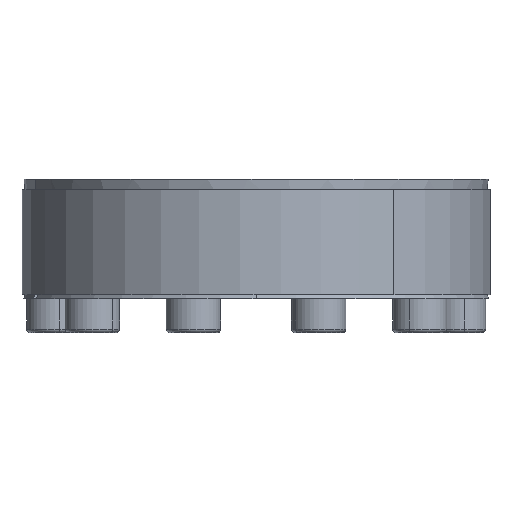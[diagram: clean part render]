
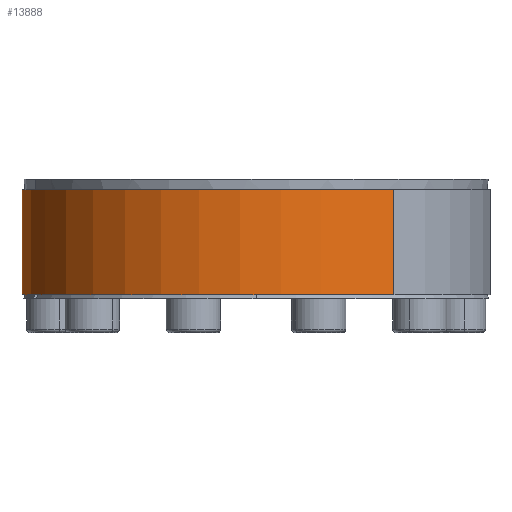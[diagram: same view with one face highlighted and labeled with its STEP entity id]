
A CAD part, left-side view. The second image highlights one B-rep face of the part: STEP entity #13888.
In plain terms, the highlighted cylindrical face has radius 68.98 mm (diameter 137.96 mm), a partial arc.
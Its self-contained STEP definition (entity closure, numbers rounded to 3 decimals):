
#569 = DIRECTION ( 'NONE',  ( 0., 0., -1. ) ) ;
#865 = CARTESIAN_POINT ( 'NONE',  ( -55.806, -40.545, 32.054 ) ) ;
#1287 = AXIS2_PLACEMENT_3D ( 'NONE', #13131, #6027, #14311 ) ;
#1507 = EDGE_LOOP ( 'NONE', ( #9873, #5436, #12437, #7676 ) ) ;
#1644 = CARTESIAN_POINT ( 'NONE',  ( 55.806, 40.545, 32.054 ) ) ;
#2344 = DIRECTION ( 'NONE',  ( 0., 0., -1. ) ) ;
#3218 = CIRCLE ( 'NONE', #1287, 68.98 ) ;
#3441 = VERTEX_POINT ( 'NONE', #8518 ) ;
#3679 = FACE_OUTER_BOUND ( 'NONE', #1507, .T. ) ;
#5436 = ORIENTED_EDGE ( 'NONE', *, *, #12494, .F. ) ;
#5447 = LINE ( 'NONE', #7699, #6533 ) ;
#5685 = VERTEX_POINT ( 'NONE', #1644 ) ;
#5922 = CARTESIAN_POINT ( 'NONE',  ( 0., 0., 32.054 ) ) ;
#6027 = DIRECTION ( 'NONE',  ( 0., 0., 1. ) ) ;
#6454 = CARTESIAN_POINT ( 'NONE',  ( 0., 0., 1.054 ) ) ;
#6533 = VECTOR ( 'NONE', #569, 1000. ) ;
#6761 = DIRECTION ( 'NONE',  ( 0., 0., -1. ) ) ;
#7108 = VERTEX_POINT ( 'NONE', #10008 ) ;
#7672 = DIRECTION ( 'NONE',  ( -0.809, -0.588, 0. ) ) ;
#7676 = ORIENTED_EDGE ( 'NONE', *, *, #9738, .T. ) ;
#7699 = CARTESIAN_POINT ( 'NONE',  ( 55.806, 40.545, 32.054 ) ) ;
#8496 = VECTOR ( 'NONE', #6761, 1000. ) ;
#8518 = CARTESIAN_POINT ( 'NONE',  ( -55.806, -40.545, 1.054 ) ) ;
#8692 = AXIS2_PLACEMENT_3D ( 'NONE', #5922, #2344, #14271 ) ;
#9738 = EDGE_CURVE ( 'NONE', #7108, #3441, #11593, .T. ) ;
#9873 = ORIENTED_EDGE ( 'NONE', *, *, #14841, .F. ) ;
#10008 = CARTESIAN_POINT ( 'NONE',  ( 55.806, 40.545, 1.054 ) ) ;
#11015 = AXIS2_PLACEMENT_3D ( 'NONE', #6454, #14773, #7672 ) ;
#11124 = EDGE_CURVE ( 'NONE', #5685, #7108, #5447, .T. ) ;
#11593 = CIRCLE ( 'NONE', #11015, 68.98 ) ;
#11635 = VERTEX_POINT ( 'NONE', #13567 ) ;
#12437 = ORIENTED_EDGE ( 'NONE', *, *, #11124, .T. ) ;
#12494 = EDGE_CURVE ( 'NONE', #5685, #11635, #3218, .T. ) ;
#13131 = CARTESIAN_POINT ( 'NONE',  ( 0., 0., 32.054 ) ) ;
#13567 = CARTESIAN_POINT ( 'NONE',  ( -55.806, -40.545, 32.054 ) ) ;
#13888 = ADVANCED_FACE ( 'NONE', ( #3679 ), #14445, .T. ) ;
#14271 = DIRECTION ( 'NONE',  ( 0.809, 0.588, 0. ) ) ;
#14311 = DIRECTION ( 'NONE',  ( -0.809, -0.588, 0. ) ) ;
#14445 = CYLINDRICAL_SURFACE ( 'NONE', #8692, 68.98 ) ;
#14773 = DIRECTION ( 'NONE',  ( 0., 0., 1. ) ) ;
#14797 = LINE ( 'NONE', #865, #8496 ) ;
#14841 = EDGE_CURVE ( 'NONE', #11635, #3441, #14797, .T. ) ;
